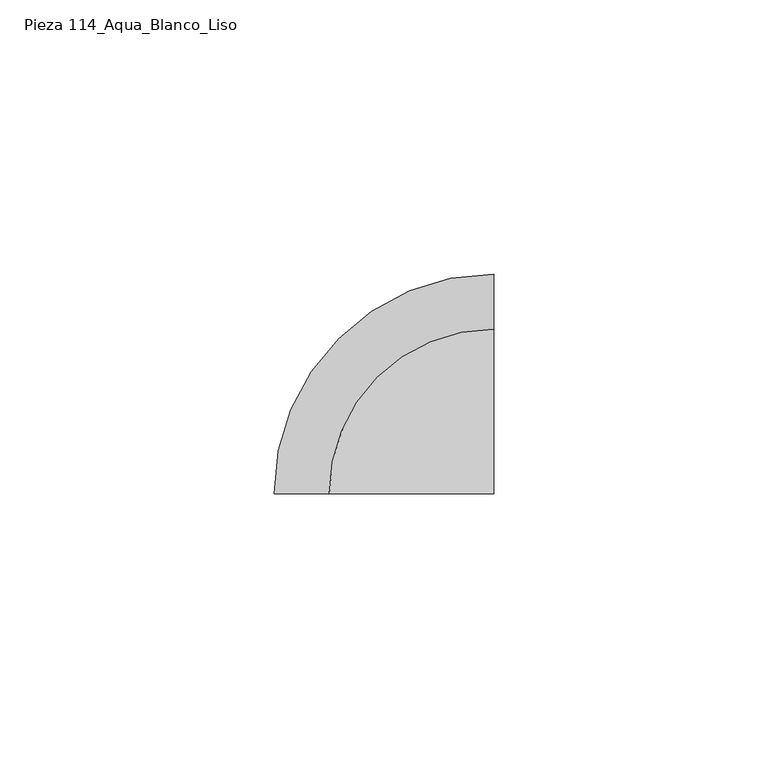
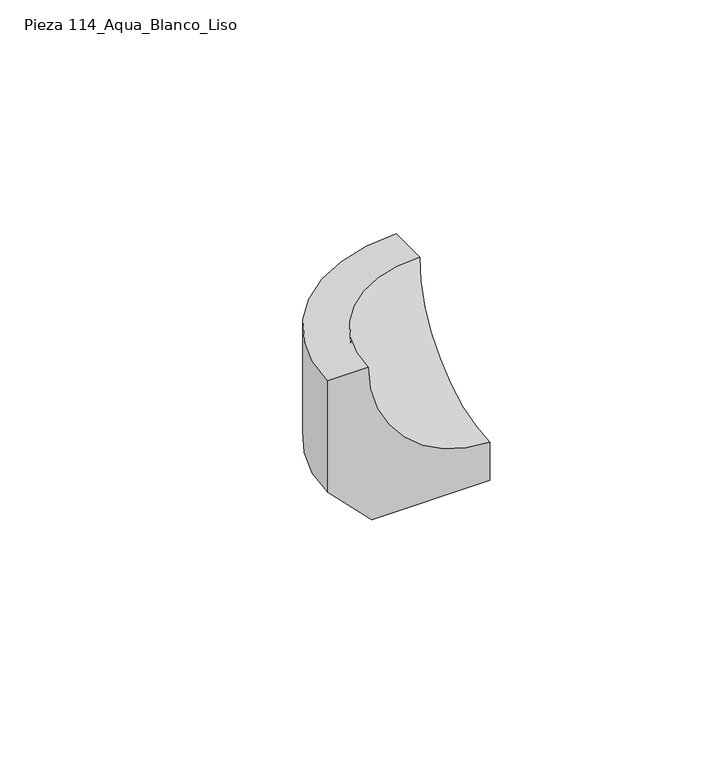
"""IFC4 building model written with IfcOpenShell, lengths in millimetres: proxy geometry, ROSA GRES_114 : Pieza 114_Aqua_Blanco_Liso."""

import ifcopenshell
import ifcopenshell.guid

model = None  # the IFC model being written
_history = None  # IfcOwnerHistory: only IFC2X3 demands one
_inside = {}  # id of a spatial element -> (the spatial element, [elements in it])
_under = {}  # id of a project, library or spatial element -> (it, [spatial elements below it])
_declared = {}  # id of a project -> (the project, [libraries it declares])
_typed = {}  # id of a type object -> (the type object, [elements of that type])
_made_of = {}  # id of a material, layer set ... -> (it, [elements and type objects made of it])


def new_model(schema):
    """Start an empty IFC model of exactly this schema.

    Asked for "IFC4X3", IfcOpenShell would pick the latest addendum, in which some entities
    have other attributes; the version numbers below select the first issue.
    IFC2X3 requires an IfcOwnerHistory on every rooted entity: one is made here for all.
    """
    global model, _history
    if schema == "IFC4X3":
        model = ifcopenshell.file(schema_version=(4, 3, 0, 0))
    else:
        model = ifcopenshell.file(schema=schema)
    _inside.clear()
    _under.clear()
    _declared.clear()
    _typed.clear()
    _made_of.clear()
    _history = None
    if model.schema == "IFC2X3":
        org = make("IfcOrganization", Name="unknown")
        user = make(
            "IfcPersonAndOrganization",
            ThePerson=make("IfcPerson", FamilyName="unknown"),
            TheOrganization=org,
        )
        app = make(
            "IfcApplication",
            ApplicationDeveloper=org,
            Version="unknown",
            ApplicationFullName="unknown",
            ApplicationIdentifier="unknown",
        )
        _history = make(
            "IfcOwnerHistory",
            OwningUser=user,
            OwningApplication=app,
            ChangeAction="ADDED",
            CreationDate=0,
        )
    return model


def make(cls, **values):
    """One entity of the class cls with the attributes given. An attribute that is None is left unset."""
    return model.create_entity(
        cls, **{name: value for name, value in values.items() if value is not None}
    )


def rooted(cls, **values):
    """An entity with a GlobalId (a new one), such as an element, a storey or a relation."""
    return make(cls, GlobalId=ifcopenshell.guid.new(), OwnerHistory=_history, **values)


def si_unit(unit_type, name, prefix=None):
    """IfcSIUnit, for example si_unit("LENGTHUNIT", "METRE", prefix="MILLI")."""
    return make("IfcSIUnit", UnitType=unit_type, Prefix=prefix, Name=name)


def assignment(units):
    """IfcUnitAssignment: the units of a project."""
    return None if units is None else make("IfcUnitAssignment", Units=units)


def point(xyz):
    """IfcCartesianPoint."""
    return None if xyz is None else make("IfcCartesianPoint", Coordinates=xyz)


def direction(xyz):
    """IfcDirection."""
    return None if xyz is None else make("IfcDirection", DirectionRatios=xyz)


def frame(location, z_axis=None, x_axis=None):
    """IfcAxis2Placement3D, a coordinate frame: its origin and axes. An axis left out is left unset."""
    return make(
        "IfcAxis2Placement3D",
        Location=point(location),
        Axis=direction(z_axis),
        RefDirection=direction(x_axis),
    )


def origin():
    """The frame at (0, 0, 0) with its axes left unset."""
    return frame((0.0, 0.0, 0.0))


def place(relative_to, where):
    """IfcLocalPlacement: puts the frame where relative to a parent placement (None: the world)."""
    return make(
        "IfcLocalPlacement", PlacementRelTo=relative_to, RelativePlacement=where
    )


def context(
    kind, dimensions, precision=None, world=None, true_north=None, identifier=None
):
    """IfcGeometricRepresentationContext, for example the 3D "Model" context."""
    return make(
        "IfcGeometricRepresentationContext",
        ContextIdentifier=identifier,
        ContextType=kind,
        CoordinateSpaceDimension=dimensions,
        Precision=precision,
        WorldCoordinateSystem=world,
        TrueNorth=true_north,
    )


def project(units=None, contexts=None):
    """IfcProject with its units and contexts."""
    return rooted(
        "IfcProject",
        Name="project",
        RepresentationContexts=contexts,
        UnitsInContext=assignment(units),
    )


def spatial(cls, under=None, at=None, **own):
    """A site, building, storey or space (cls), placed at a placement, below another one or the project."""
    s = rooted(cls, ObjectPlacement=at, **own)
    if under is not None:
        _under.setdefault(under.id(), (under, []))[1].append(s)
    return s


def polyline(points):
    """IfcPolyline through the points."""
    return make("IfcPolyline", Points=[point(p) for p in points])


def circle_curve(where, radius):
    """IfcCircle in the frame where."""
    return make("IfcCircle", Position=where, Radius=radius)


def ellipse_curve(where, semi_axis1, semi_axis2):
    """IfcEllipse in the frame where."""
    return make(
        "IfcEllipse", Position=where, SemiAxis1=semi_axis1, SemiAxis2=semi_axis2
    )


def trimmed(basis, trim1, trim2, sense, master):
    """IfcTrimmedCurve: the piece of a basis curve between two trims."""
    return make(
        "IfcTrimmedCurve",
        BasisCurve=basis,
        Trim1=trim1,
        Trim2=trim2,
        SenseAgreement=sense,
        MasterRepresentation=master,
    )


def shape(context_of_items, identifier, shape_type, items):
    """IfcShapeRepresentation: the items that make up one representation, for example the "Body"."""
    return make(
        "IfcShapeRepresentation",
        ContextOfItems=context_of_items,
        RepresentationIdentifier=identifier,
        RepresentationType=shape_type,
        Items=items,
    )


def source(mapping_origin, context_of_items, identifier, shape_type, items):
    """IfcRepresentationMap: a shape defined once, which mapped items show again and again."""
    return make(
        "IfcRepresentationMap",
        MappingOrigin=mapping_origin,
        MappedRepresentation=shape(context_of_items, identifier, shape_type, items),
    )


def transform(
    local_origin,
    x_axis=None,
    y_axis=None,
    z_axis=None,
    scale=None,
    scale2=None,
    scale3=None,
    uniform=True,
):
    """IfcCartesianTransformationOperator3D, or its non-uniform kind. x_axis, y_axis, z_axis: its Axis1, 2, 3."""
    if uniform:
        return make(
            "IfcCartesianTransformationOperator3D",
            Axis1=direction(x_axis),
            Axis2=direction(y_axis),
            LocalOrigin=point(local_origin),
            Scale=scale,
            Axis3=direction(z_axis),
        )
    return make(
        "IfcCartesianTransformationOperator3DnonUniform",
        Axis1=direction(x_axis),
        Axis2=direction(y_axis),
        LocalOrigin=point(local_origin),
        Scale=scale,
        Axis3=direction(z_axis),
        Scale2=scale2,
        Scale3=scale3,
    )


def mapped(mapping_source, mapping_target):
    """IfcMappedItem: shows the shape of a source again, moved by a transform."""
    return make(
        "IfcMappedItem", MappingSource=mapping_source, MappingTarget=mapping_target
    )


def made_of(thing, what):
    """Note that an element or type object is made of a material, layer set ...; save() writes the relation."""
    if what is not None:
        _made_of.setdefault(what.id(), (what, []))[1].append(thing)
    return thing


def element(
    cls,
    number,
    at=None,
    inside=None,
    cuts=None,
    type_object=None,
    material=None,
    context=None,
    identifier="Body",
    shape_type=None,
    held_by="IfcProductDefinitionShape",
    body=None,
    shapes=None,
    **own,
):
    """One element of the class cls, such as IfcWall. Its Tag is "e" and its number.

    at: its placement. inside: the storey or other place that contains it. cuts: it is an
    opening in that element (IfcRelVoidsElement). A single representation is given by context,
    identifier, shape_type and body (its items); several are given by shapes. held_by: the class
    of the entity that holds the representations. save() writes the other relations.
    """
    e = rooted(cls, Tag="e%d" % number, ObjectPlacement=at, **own)
    if body is not None:
        shapes = [shape(context, identifier, shape_type, body)]
    if shapes is not None:
        e.Representation = make(held_by, Representations=shapes)
    if inside is not None:
        _inside.setdefault(inside.id(), (inside, []))[1].append(e)
    if cuts is not None:
        rooted(
            "IfcRelVoidsElement", RelatingBuildingElement=cuts, RelatedOpeningElement=e
        )
    if type_object is not None:
        _typed.setdefault(type_object.id(), (type_object, []))[1].append(e)
    return made_of(e, material)


def aggregate(whole, parts):
    """IfcRelAggregates: a whole, such as a stair, and the parts it consists of."""
    return rooted("IfcRelAggregates", RelatingObject=whole, RelatedObjects=parts)


def save(model, path):
    """Write the relations noted so far, then the file.

    IfcRelAggregates (storeys below a building ...), IfcRelContainedInSpatialStructure (elements
    in a storey), IfcRelDefinesByType, IfcRelAssociatesMaterial and IfcRelDeclares: one each for
    every whole, place, type object, material and project.
    """
    for whole, parts in _under.values():
        aggregate(whole, parts)
    for where, things in _inside.values():
        rooted(
            "IfcRelContainedInSpatialStructure",
            RelatedElements=things,
            RelatingStructure=where,
        )
    for kind, things in _typed.values():
        rooted("IfcRelDefinesByType", RelatedObjects=things, RelatingType=kind)
    for what, things in _made_of.values():
        rooted("IfcRelAssociatesMaterial", RelatedObjects=things, RelatingMaterial=what)
    for by, libraries in _declared.values():
        rooted("IfcRelDeclares", RelatingContext=by, RelatedDefinitions=libraries)
    model.write(path)


def plane_surface(at):
    """IfcPlane: the flat surface through the origin of the frame at, square to its z axis."""
    return make("IfcPlane", Position=at)


def cylinder_surface(at, radius):
    """IfcCylindricalSurface: all points at the distance radius from the z axis of the frame at."""
    return make("IfcCylindricalSurface", Position=at, Radius=radius)


def revolved_surface(curve, axis_point, axis_direction):
    """IfcSurfaceOfRevolution: the curve turned about the line through axis_point along axis_direction."""
    return make(
        "IfcSurfaceOfRevolution",
        SweptCurve=make("IfcArbitraryOpenProfileDef", ProfileType="CURVE", Curve=curve),
        AxisPosition=make("IfcAxis1Placement", Location=point(axis_point), Axis=direction(axis_direction)),
    )


def advanced_brep(points, edges, surfaces, faces):
    """IfcAdvancedBrep: a solid bounded by faces that lie on surfaces and meet in shared edges.

    An edge is (start, end): straight between two places in points (the first is 0);
    or (start, end, curve); or (start, end, curve, False) where it runs against its curve.
    A face is (place in surfaces, loops), or (place, loops, False) where it looks against
    its surface's normal. A loop lists edges by number (the first is 1), with a minus sign
    where the edge is run from its end to its start. The first loop is the outer one.
    """
    corners = [point(p) for p in points]
    vertices = [make("IfcVertexPoint", VertexGeometry=c) for c in corners]
    made = []
    for start, end, *more in edges:
        made.append(
            make(
                "IfcEdgeCurve",
                EdgeStart=vertices[start],
                EdgeEnd=vertices[end],
                EdgeGeometry=more[0] if more else make("IfcPolyline", Points=[corners[start], corners[end]]),
                SameSense=more[1] if len(more) > 1 else True,
            )
        )
    hull = []
    for where, loops, *sense in faces:
        bounds = []
        for j, loop in enumerate(loops):
            ring = [make("IfcOrientedEdge", EdgeElement=made[abs(k) - 1], Orientation=k > 0) for k in loop]
            bounds.append(
                make(
                    "IfcFaceOuterBound" if j == 0 else "IfcFaceBound",
                    Bound=make("IfcEdgeLoop", EdgeList=ring),
                    Orientation=True,
                )
            )
        hull.append(make("IfcAdvancedFace", Bounds=bounds, FaceSurface=surfaces[where], SameSense=sense[0] if sense else True))
    return make("IfcAdvancedBrep", Outer=make("IfcClosedShell", CfsFaces=hull))


def pieza_114_aqua_blanco_liso_fd1d6eeb(model_context):
    return source(origin(), model_context, "Body", "AdvancedBrep", [
        advanced_brep(
        [(0.0, -40.0354514, 10.8568474), (10.8568474, -40.0354514, 0.0), (40.0354514, -40.0354514, 0.0), (40.0354514, -40.0354514, 10.0088629), (10.0088629, -40.0354514, 40.0354514), (0.0, -40.0354514, 40.0354514), (40.0354514, 0.0, 10.8568474), (40.0354514, 0.0, 40.0354514), (40.0354514, -10.0088629, 40.0354514), (40.0354514, -10.8568474, 0.0)],
        [
            (0, 1),
            (1, 2),
            (2, 3),
            (3, 4, circle_curve(frame((40.0354514, -40.0354514, 40.0354514), z_axis=(0.0, 1.0, 0.0), x_axis=(1.0, 0.0, 0.0)), 30.0265886)),
            (4, 5),
            (5, 0),
            (6, 7),
            (7, 8),
            (8, 3, circle_curve(frame((40.0354514, -40.0354514, 40.0354514), z_axis=(-1.0, 0.0, 0.0), x_axis=(0.0, -1.0, 0.0)), 30.0265886)),
            (2, 9),
            (9, 6),
            (9, 1, circle_curve(frame((40.0354514, -40.0354514, 0.0), z_axis=(0.0, 0.0, 1.0), x_axis=(-1.0, 0.0, 0.0)), 29.178604)),
            (0, 6, circle_curve(frame((40.0354514, -40.0354514, 10.8568474), z_axis=(0.0, 0.0, -1.0), x_axis=(-1.0, 0.0, 0.0)), 40.0354514)),
            (8, 4, circle_curve(frame((40.0354514, -40.0354514, 40.0354514), z_axis=(0.0, 0.0, 1.0), x_axis=(-1.0, 0.0, 0.0)), 30.0265886)),
            (7, 5, circle_curve(frame((40.0354514, -40.0354514, 40.0354514), z_axis=(0.0, 0.0, 1.0), x_axis=(-1.0, 0.0, 0.0)), 40.0354514)),
        ],
        [
            plane_surface(frame((40.0354514, -40.0354514, 65.0354514), z_axis=(0.0, -1.0, 0.0), x_axis=(-1.0, 0.0, 0.0))),
            plane_surface(frame((40.0354514, -40.0354514, 65.0354514), z_axis=(1.0, 0.0, 0.0), x_axis=(0.0, 1.0, 0.0))),
            revolved_surface(polyline([(0.0, -40.0354514, 10.8568474), (10.8568474, -40.0354514, 0.0)]), (40.0354514, -40.0354514, 65.0354514), (0.0, 0.0, -1.0)),
            plane_surface(frame((40.0354514, -40.0354514, 0.0), z_axis=(0.0, 0.0, -1.0), x_axis=(-1.0, 0.0, 0.0))),
            revolved_surface(trimmed(ellipse_curve(frame((40.0354514, -40.0354514, 40.0354514), z_axis=(0.0, 1.0, 0.0), x_axis=(1.0, 0.0, 0.0)), 30.0265886, 30.0265886), [point((40.0354514, -40.0354514, 10.0088629))], [point((10.0088629, -40.0354514, 40.0354514))], True, "CARTESIAN"), (40.0354514, -40.0354514, 65.0354514), (0.0, 0.0, -1.0)),
            plane_surface(frame((40.0354514, -40.0354514, 40.0354514), z_axis=(0.0, 0.0, 1.0), x_axis=(-1.0, 0.0, 0.0))),
            cylinder_surface(frame((40.0354514, -40.0354514, 65.0354514), z_axis=(0.0, 0.0, -1.0), x_axis=(-1.0, 0.0, 0.0)), 40.0354514),
        ],
        [
            (0, [[1, 2, 3, 4, 5, 6]]),
            (1, [[7, 8, 9, -3, 10, 11]]),
            (2, [[12, -1, 13, -11]]),
            (3, [[-2, -12, -10]]),
            (4, [[14, -4, -9]]),
            (5, [[15, -5, -14, -8]]),
            (6, [[-13, -6, -15, -7]]),
        ],
    ),
    ])


if __name__ == "__main__":
    model = new_model("IFC4")
    model_context = context("Model", 3, world=origin())
    ifc_project = project(units=[si_unit("LENGTHUNIT", "METRE", prefix="MILLI")], contexts=[model_context])
    site = spatial("IfcSite", under=ifc_project)
    building = spatial("IfcBuilding", under=site)
    placement = place(None, origin())
    pieza_114_aqua_blanco_liso_shape = pieza_114_aqua_blanco_liso_fd1d6eeb(model_context)
    element("IfcBuildingElementProxy", 1, Name="ROSA GRES_114 : Pieza 114_Aqua_Blanco_Liso", ObjectType="ROSA GRES_114 : Pieza 114_Aqua_Blanco_Liso", at=placement, inside=building, context=model_context, shape_type="MappedRepresentation", body=[
        mapped(pieza_114_aqua_blanco_liso_shape, transform((0.0, 0.0, 0.0), x_axis=(1.0, 0.0, 0.0), y_axis=(0.0, 1.0, 0.0), z_axis=(0.0, 0.0, 1.0))),
    ])
    save(model, "model.ifc")
